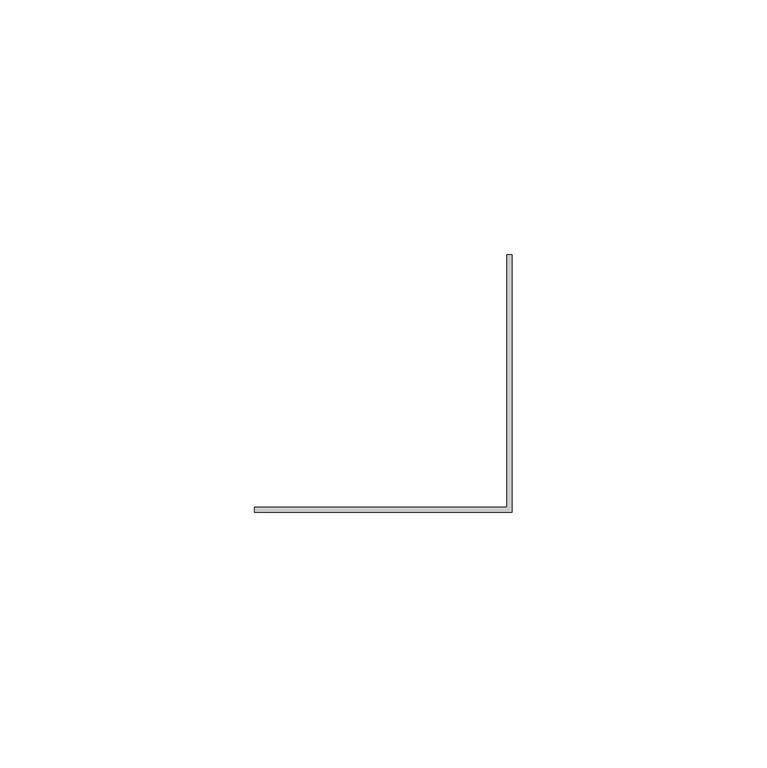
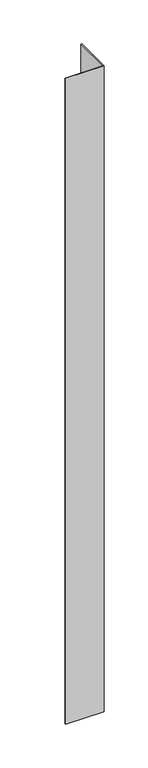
"""IFC4 building model written with IfcOpenShell, lengths in millimetres: member geometry, Meneau d'angle en L : ATELIERS 3S_Angle rentrant."""

import ifcopenshell
import ifcopenshell.guid

model = None  # the IFC model being written
_history = None  # IfcOwnerHistory: only IFC2X3 demands one
_inside = {}  # id of a spatial element -> (the spatial element, [elements in it])
_under = {}  # id of a project, library or spatial element -> (it, [spatial elements below it])
_declared = {}  # id of a project -> (the project, [libraries it declares])
_typed = {}  # id of a type object -> (the type object, [elements of that type])
_made_of = {}  # id of a material, layer set ... -> (it, [elements and type objects made of it])


def new_model(schema):
    """Start an empty IFC model of exactly this schema.

    Asked for "IFC4X3", IfcOpenShell would pick the latest addendum, in which some entities
    have other attributes; the version numbers below select the first issue.
    IFC2X3 requires an IfcOwnerHistory on every rooted entity: one is made here for all.
    """
    global model, _history
    if schema == "IFC4X3":
        model = ifcopenshell.file(schema_version=(4, 3, 0, 0))
    else:
        model = ifcopenshell.file(schema=schema)
    _inside.clear()
    _under.clear()
    _declared.clear()
    _typed.clear()
    _made_of.clear()
    _history = None
    if model.schema == "IFC2X3":
        org = make("IfcOrganization", Name="unknown")
        user = make(
            "IfcPersonAndOrganization",
            ThePerson=make("IfcPerson", FamilyName="unknown"),
            TheOrganization=org,
        )
        app = make(
            "IfcApplication",
            ApplicationDeveloper=org,
            Version="unknown",
            ApplicationFullName="unknown",
            ApplicationIdentifier="unknown",
        )
        _history = make(
            "IfcOwnerHistory",
            OwningUser=user,
            OwningApplication=app,
            ChangeAction="ADDED",
            CreationDate=0,
        )
    return model


def make(cls, **values):
    """One entity of the class cls with the attributes given. An attribute that is None is left unset."""
    return model.create_entity(
        cls, **{name: value for name, value in values.items() if value is not None}
    )


def rooted(cls, **values):
    """An entity with a GlobalId (a new one), such as an element, a storey or a relation."""
    return make(cls, GlobalId=ifcopenshell.guid.new(), OwnerHistory=_history, **values)


def si_unit(unit_type, name, prefix=None):
    """IfcSIUnit, for example si_unit("LENGTHUNIT", "METRE", prefix="MILLI")."""
    return make("IfcSIUnit", UnitType=unit_type, Prefix=prefix, Name=name)


def assignment(units):
    """IfcUnitAssignment: the units of a project."""
    return None if units is None else make("IfcUnitAssignment", Units=units)


def point(xyz):
    """IfcCartesianPoint."""
    return None if xyz is None else make("IfcCartesianPoint", Coordinates=xyz)


def direction(xyz):
    """IfcDirection."""
    return None if xyz is None else make("IfcDirection", DirectionRatios=xyz)


def frame(location, z_axis=None, x_axis=None):
    """IfcAxis2Placement3D, a coordinate frame: its origin and axes. An axis left out is left unset."""
    return make(
        "IfcAxis2Placement3D",
        Location=point(location),
        Axis=direction(z_axis),
        RefDirection=direction(x_axis),
    )


def origin():
    """The frame at (0, 0, 0) with its axes left unset."""
    return frame((0.0, 0.0, 0.0))


def place(relative_to, where):
    """IfcLocalPlacement: puts the frame where relative to a parent placement (None: the world)."""
    return make(
        "IfcLocalPlacement", PlacementRelTo=relative_to, RelativePlacement=where
    )


def context(
    kind, dimensions, precision=None, world=None, true_north=None, identifier=None
):
    """IfcGeometricRepresentationContext, for example the 3D "Model" context."""
    return make(
        "IfcGeometricRepresentationContext",
        ContextIdentifier=identifier,
        ContextType=kind,
        CoordinateSpaceDimension=dimensions,
        Precision=precision,
        WorldCoordinateSystem=world,
        TrueNorth=true_north,
    )


def project(units=None, contexts=None):
    """IfcProject with its units and contexts."""
    return rooted(
        "IfcProject",
        Name="project",
        RepresentationContexts=contexts,
        UnitsInContext=assignment(units),
    )


def spatial(cls, under=None, at=None, **own):
    """A site, building, storey or space (cls), placed at a placement, below another one or the project."""
    s = rooted(cls, ObjectPlacement=at, **own)
    if under is not None:
        _under.setdefault(under.id(), (under, []))[1].append(s)
    return s


def polyline(points):
    """IfcPolyline through the points."""
    return make("IfcPolyline", Points=[point(p) for p in points])


def outline(outer, holes=None, kind="AREA"):
    """IfcArbitraryClosedProfileDef: a profile drawn as a closed curve; with holes, ...WithVoids."""
    if holes is None:
        return make("IfcArbitraryClosedProfileDef", ProfileType=kind, OuterCurve=outer)
    return make(
        "IfcArbitraryProfileDefWithVoids",
        ProfileType=kind,
        OuterCurve=outer,
        InnerCurves=holes,
    )


def extrude(swept, where, along, depth):
    """IfcExtrudedAreaSolid: the profile swept, set in the frame where, extruded along a direction by depth."""
    return make(
        "IfcExtrudedAreaSolid",
        SweptArea=swept,
        Position=where,
        ExtrudedDirection=direction(along),
        Depth=depth,
    )


def shape(context_of_items, identifier, shape_type, items):
    """IfcShapeRepresentation: the items that make up one representation, for example the "Body"."""
    return make(
        "IfcShapeRepresentation",
        ContextOfItems=context_of_items,
        RepresentationIdentifier=identifier,
        RepresentationType=shape_type,
        Items=items,
    )


def source(mapping_origin, context_of_items, identifier, shape_type, items):
    """IfcRepresentationMap: a shape defined once, which mapped items show again and again."""
    return make(
        "IfcRepresentationMap",
        MappingOrigin=mapping_origin,
        MappedRepresentation=shape(context_of_items, identifier, shape_type, items),
    )


def transform(
    local_origin,
    x_axis=None,
    y_axis=None,
    z_axis=None,
    scale=None,
    scale2=None,
    scale3=None,
    uniform=True,
):
    """IfcCartesianTransformationOperator3D, or its non-uniform kind. x_axis, y_axis, z_axis: its Axis1, 2, 3."""
    if uniform:
        return make(
            "IfcCartesianTransformationOperator3D",
            Axis1=direction(x_axis),
            Axis2=direction(y_axis),
            LocalOrigin=point(local_origin),
            Scale=scale,
            Axis3=direction(z_axis),
        )
    return make(
        "IfcCartesianTransformationOperator3DnonUniform",
        Axis1=direction(x_axis),
        Axis2=direction(y_axis),
        LocalOrigin=point(local_origin),
        Scale=scale,
        Axis3=direction(z_axis),
        Scale2=scale2,
        Scale3=scale3,
    )


def mapped(mapping_source, mapping_target):
    """IfcMappedItem: shows the shape of a source again, moved by a transform."""
    return make(
        "IfcMappedItem", MappingSource=mapping_source, MappingTarget=mapping_target
    )


def made_of(thing, what):
    """Note that an element or type object is made of a material, layer set ...; save() writes the relation."""
    if what is not None:
        _made_of.setdefault(what.id(), (what, []))[1].append(thing)
    return thing


def element(
    cls,
    number,
    at=None,
    inside=None,
    cuts=None,
    type_object=None,
    material=None,
    context=None,
    identifier="Body",
    shape_type=None,
    held_by="IfcProductDefinitionShape",
    body=None,
    shapes=None,
    **own,
):
    """One element of the class cls, such as IfcWall. Its Tag is "e" and its number.

    at: its placement. inside: the storey or other place that contains it. cuts: it is an
    opening in that element (IfcRelVoidsElement). A single representation is given by context,
    identifier, shape_type and body (its items); several are given by shapes. held_by: the class
    of the entity that holds the representations. save() writes the other relations.
    """
    e = rooted(cls, Tag="e%d" % number, ObjectPlacement=at, **own)
    if body is not None:
        shapes = [shape(context, identifier, shape_type, body)]
    if shapes is not None:
        e.Representation = make(held_by, Representations=shapes)
    if inside is not None:
        _inside.setdefault(inside.id(), (inside, []))[1].append(e)
    if cuts is not None:
        rooted(
            "IfcRelVoidsElement", RelatingBuildingElement=cuts, RelatedOpeningElement=e
        )
    if type_object is not None:
        _typed.setdefault(type_object.id(), (type_object, []))[1].append(e)
    return made_of(e, material)


def aggregate(whole, parts):
    """IfcRelAggregates: a whole, such as a stair, and the parts it consists of."""
    return rooted("IfcRelAggregates", RelatingObject=whole, RelatedObjects=parts)


def save(model, path):
    """Write the relations noted so far, then the file.

    IfcRelAggregates (storeys below a building ...), IfcRelContainedInSpatialStructure (elements
    in a storey), IfcRelDefinesByType, IfcRelAssociatesMaterial and IfcRelDeclares: one each for
    every whole, place, type object, material and project.
    """
    for whole, parts in _under.values():
        aggregate(whole, parts)
    for where, things in _inside.values():
        rooted(
            "IfcRelContainedInSpatialStructure",
            RelatedElements=things,
            RelatingStructure=where,
        )
    for kind, things in _typed.values():
        rooted("IfcRelDefinesByType", RelatedObjects=things, RelatingType=kind)
    for what, things in _made_of.values():
        rooted("IfcRelAssociatesMaterial", RelatedObjects=things, RelatingMaterial=what)
    for by, libraries in _declared.values():
        rooted("IfcRelDeclares", RelatingContext=by, RelatedDefinitions=libraries)
    model.write(path)


def member_e705cef6(model_context):
    return source(origin(), model_context, "Body", "SweptSolid", [
        extrude(outline(polyline([(0.0, 50.5), (0.0, 0.0), (-50.5, 0.0), (-50.5, 1.0), (-1.0, 1.0), (-1.0, 50.5), (0.0, 50.5)])), frame((0.0, 0.0, -900.0), z_axis=(0.0, 0.0, 1.0), x_axis=(1.0, 0.0, 0.0)), (0.0, 0.0, 1.0), 900.0),
    ])


if __name__ == "__main__":
    model = new_model("IFC4")
    model_context = context("Model", 3, world=origin())
    ifc_project = project(units=[si_unit("LENGTHUNIT", "METRE", prefix="MILLI")], contexts=[model_context])
    site = spatial("IfcSite", under=ifc_project)
    building = spatial("IfcBuilding", under=site)
    placement = place(None, origin())
    member_shape = member_e705cef6(model_context)
    element("IfcMember", 1, ObjectType="Meneau d'angle en L : ATELIERS 3S_Angle rentrant", at=placement, inside=building, context=model_context, shape_type="MappedRepresentation", body=[
        mapped(member_shape, transform((0.0, 0.0, 0.0), x_axis=(1.0, 0.0, 0.0), y_axis=(0.0, 1.0, 0.0), z_axis=(0.0, 0.0, 1.0))),
    ])
    save(model, "model.ifc")
